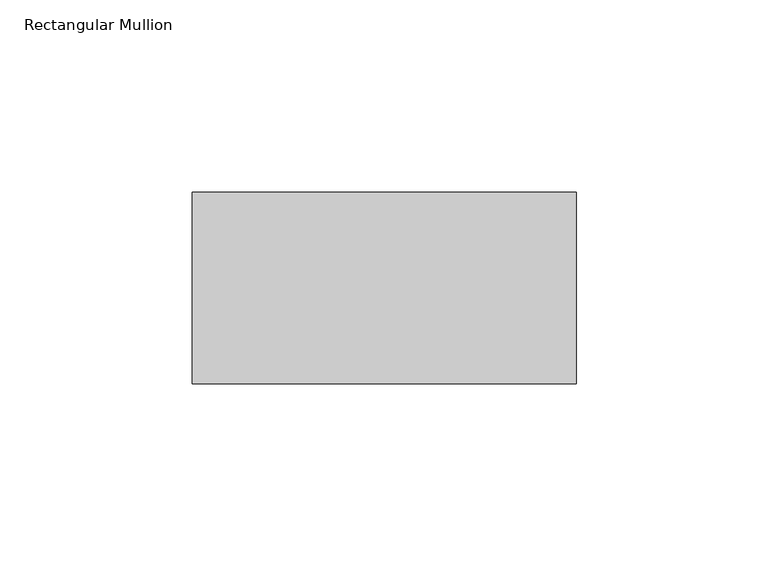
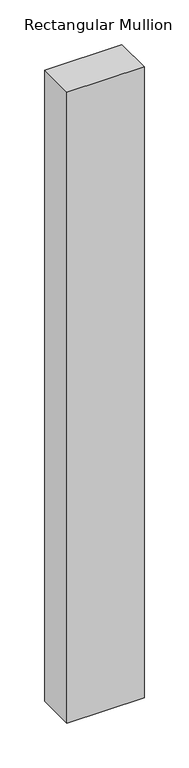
"""IFC4 building model written with IfcOpenShell, lengths in millimetres: member geometry, Rectangular Mullion : Mullion_Curtain Wall_Generic Showcase_50x100mm."""

from ifc_helpers import new_model, si_unit, frame, origin, place, context, project, spatial, polyline, outline, extrude, source, transform, mapped, element, save


def rectangular_mullion_b7052393(model_context):
    return source(origin(), model_context, "Body", "SweptSolid", [
        extrude(outline(polyline([(0.0, 50.0), (0.0, 0.0), (-100.0, 0.0), (-100.0, 50.0), (0.0, 50.0)])), frame((0.0, 0.0, -862.5), z_axis=(0.0, 0.0, 1.0), x_axis=(1.0, 0.0, 0.0)), (0.0, 0.0, 1.0), 862.5),
    ])


if __name__ == "__main__":
    model = new_model("IFC4")
    model_context = context("Model", 3, world=origin())
    ifc_project = project(units=[si_unit("LENGTHUNIT", "METRE", prefix="MILLI")], contexts=[model_context])
    site = spatial("IfcSite", under=ifc_project)
    building = spatial("IfcBuilding", under=site)
    placement = place(None, origin())
    rectangular_mullion_shape = rectangular_mullion_b7052393(model_context)
    element("IfcMember", 1, ObjectType="Rectangular Mullion : Mullion_Curtain Wall_Generic Showcase_50x100mm", at=placement, inside=building, context=model_context, shape_type="MappedRepresentation", body=[
        mapped(rectangular_mullion_shape, transform((0.0, 0.0, 0.0), x_axis=(1.0, 0.0, 0.0), y_axis=(0.0, 1.0, 0.0), z_axis=(0.0, 0.0, 1.0))),
    ])
    save(model, "model.ifc")
